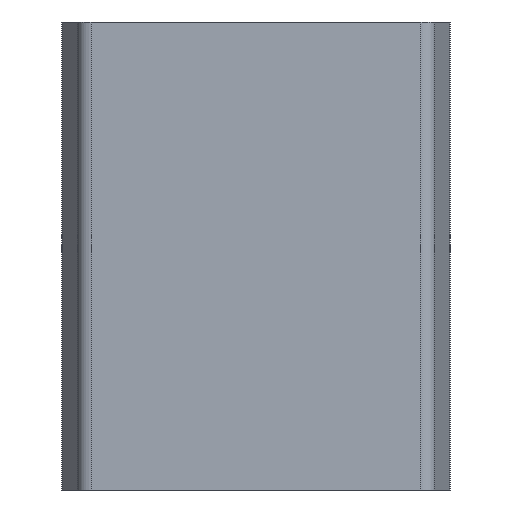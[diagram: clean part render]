
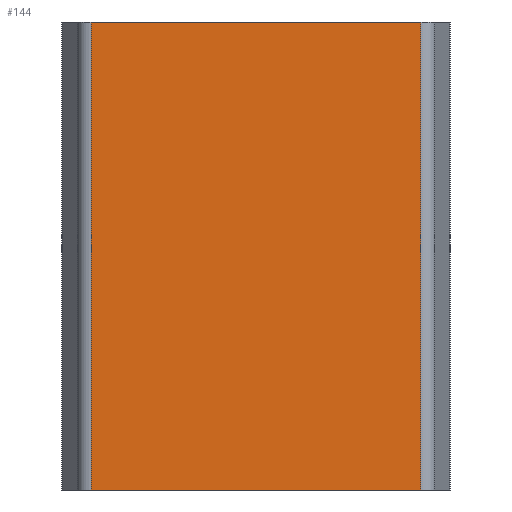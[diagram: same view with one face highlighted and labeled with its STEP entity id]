
A CAD part, front view. The second image highlights one B-rep face of the part: STEP entity #144.
In plain terms, the highlighted planar face has unit normal (0, -1, 0).
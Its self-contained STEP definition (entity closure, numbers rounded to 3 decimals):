
#46 = EDGE_CURVE ( 'NONE', #217, #534, #305, .T. ) ;
#73 = ORIENTED_EDGE ( 'NONE', *, *, #46, .F. ) ;
#125 = EDGE_LOOP ( 'NONE', ( #73, #841, #1123, #1079 ) ) ;
#144 = ADVANCED_FACE ( 'NONE', ( #246 ), #247, .T. ) ;
#217 = VERTEX_POINT ( 'NONE', #336 ) ;
#246 = FACE_OUTER_BOUND ( 'NONE', #125, .T. ) ;
#247 = PLANE ( 'NONE',  #248 ) ;
#248 = AXIS2_PLACEMENT_3D ( 'NONE', #249, #250, #251 ) ;
#249 = CARTESIAN_POINT ( 'NONE',  ( -35.23, -76.2, -100. ) ) ;
#250 = DIRECTION ( 'NONE',  ( 0., -1., 0. ) ) ;
#251 = DIRECTION ( 'NONE',  ( 0., 0., -1. ) ) ;
#305 = LINE ( 'NONE', #307, #308 ) ;
#307 = CARTESIAN_POINT ( 'NONE',  ( -35.23, -76.2, 0. ) ) ;
#308 = VECTOR ( 'NONE', #309, 1000. ) ;
#309 = DIRECTION ( 'NONE',  ( 1., 0., 0. ) ) ;
#336 = CARTESIAN_POINT ( 'NONE',  ( -35.23, -76.2, 0. ) ) ;
#373 = CARTESIAN_POINT ( 'NONE',  ( -35.23, -76.2, -100. ) ) ;
#534 = VERTEX_POINT ( 'NONE', #566 ) ;
#566 = CARTESIAN_POINT ( 'NONE',  ( 35.23, -76.2, 0. ) ) ;
#568 = LINE ( 'NONE', #569, #576 ) ;
#569 = CARTESIAN_POINT ( 'NONE',  ( -35.23, -76.2, -100. ) ) ;
#576 = VECTOR ( 'NONE', #577, 1000. ) ;
#577 = DIRECTION ( 'NONE',  ( 0., 0., 1. ) ) ;
#645 = CARTESIAN_POINT ( 'NONE',  ( 35.23, -76.2, -100. ) ) ;
#791 = LINE ( 'NONE', #792, #793 ) ;
#792 = CARTESIAN_POINT ( 'NONE',  ( 35.23, -76.2, -100. ) ) ;
#793 = VECTOR ( 'NONE', #794, 1000. ) ;
#794 = DIRECTION ( 'NONE',  ( 0., 0., 1. ) ) ;
#841 = ORIENTED_EDGE ( 'NONE', *, *, #1053, .F. ) ;
#892 = LINE ( 'NONE', #893, #894 ) ;
#893 = CARTESIAN_POINT ( 'NONE',  ( -35.23, -76.2, -100. ) ) ;
#894 = VECTOR ( 'NONE', #898, 1000. ) ;
#898 = DIRECTION ( 'NONE',  ( 1., 0., 0. ) ) ;
#1053 = EDGE_CURVE ( 'NONE', #1121, #217, #568, .T. ) ;
#1061 = VERTEX_POINT ( 'NONE', #645 ) ;
#1077 = EDGE_CURVE ( 'NONE', #1061, #534, #791, .T. ) ;
#1079 = ORIENTED_EDGE ( 'NONE', *, *, #1077, .T. ) ;
#1098 = EDGE_CURVE ( 'NONE', #1121, #1061, #892, .T. ) ;
#1121 = VERTEX_POINT ( 'NONE', #373 ) ;
#1123 = ORIENTED_EDGE ( 'NONE', *, *, #1098, .T. ) ;
